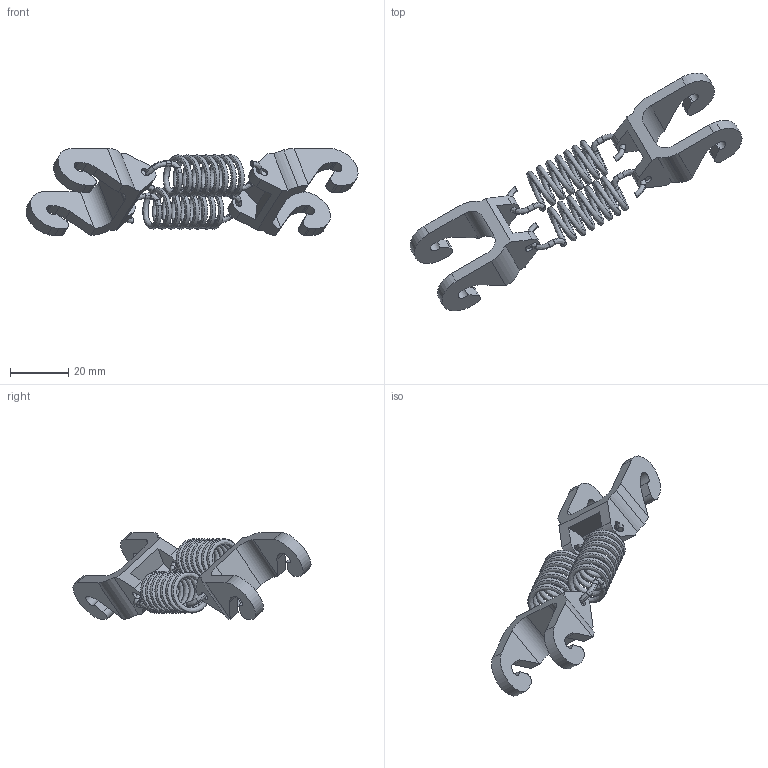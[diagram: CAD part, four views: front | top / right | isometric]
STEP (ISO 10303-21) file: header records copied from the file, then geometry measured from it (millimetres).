
FILE_DESCRIPTION (( 'STEP AP214' ), '1' );
FILE_NAME ('IRB360_8-1130-STD-4D_rev03_LA3_CL_CAD.step', '2025-01-14T07:05:50', ( '' ), ( '' ), 'SwSTEP 2.0', 'SolidWorks 2022', '' );
FILE_SCHEMA (( 'AUTOMOTIVE_DESIGN' ));
Length unit declared in the file: millimetre
Products named in the file (1): IRB360_8-1130-STD-4D_rev03_LA3_CL_CAD
Bounding box: 114.05 x 81.77 x 29.88 mm (x, y, z)
Volume: 11802.8 mm3; surface area: 10699.5 mm2
Topology: 1 solids, 1 shells, 166 faces, 450 edges, 292 vertices
Faces by surface type: cylinder 60, plane 54, bspline 52
Entity records: 11336 total; most frequent: CARTESIAN_POINT 6573, ORIENTED_EDGE 900, DIRECTION 820, EDGE_CURVE 450, AXIS2_PLACEMENT_3D 323, VERTEX_POINT 292, CIRCLE 208, VECTOR 174
